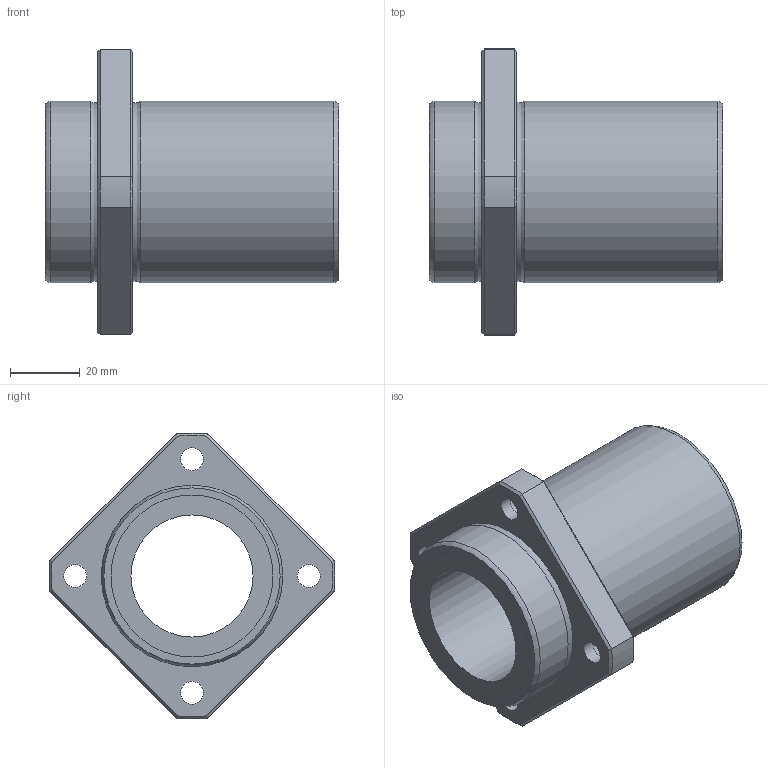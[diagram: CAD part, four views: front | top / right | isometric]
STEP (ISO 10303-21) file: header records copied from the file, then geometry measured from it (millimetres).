
FILE_DESCRIPTION((''),'2;1');
FILE_NAME('C:\Documents and Settings\土屋\My Documents\土屋移動用フォルダ\製品 (図面)\カタログ用3D\変換ファイル\OZAK_3D-CAD(STEP形式)\Part1.-Linear Bearings_ﾘﾆｱﾍﾞｱﾘﾝｸﾞ\09_Maintenance Free_ﾒｲﾝﾃﾅﾝｽﾌﾘｰ\L2017-09-21T13:42:41','2017-09-21T13:42:41',('y'),(''),'Autodesk Inventor 11','Autodesk Inventor 11','');
FILE_SCHEMA(('AUTOMOTIVE_DESIGN { 1 0 10303 214 1 1 1 1 }'));
Length unit declared in the file: millimetre
Products named in the file (1): LFKB-MF
Bounding box: 84 x 81.94 x 81.94 mm (x, y, z)
Volume: 112907.8 mm3; surface area: 30523.1 mm2
Topology: 1 solids, 1 shells, 51 faces, 103 edges, 62 vertices
Faces by surface type: plane 18, bspline 14, cylinder 9, cone 8, torus 2
Full cylindrical faces by diameter (mm): 35 x1, 46.4 x2, 52 x2
Entity records: 1517 total; most frequent: CARTESIAN_POINT 520, DIRECTION 192, ORIENTED_EDGE 172, EDGE_CURVE 86, EDGE_LOOP 86, AXIS2_PLACEMENT_3D 84, VERTEX_POINT 62, FACE_OUTER_BOUND 51
